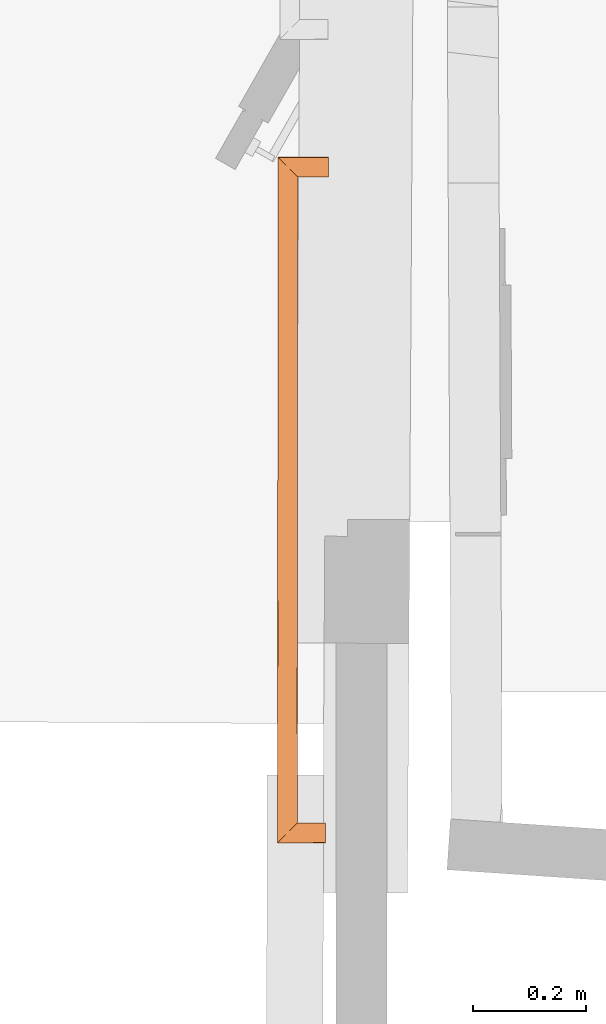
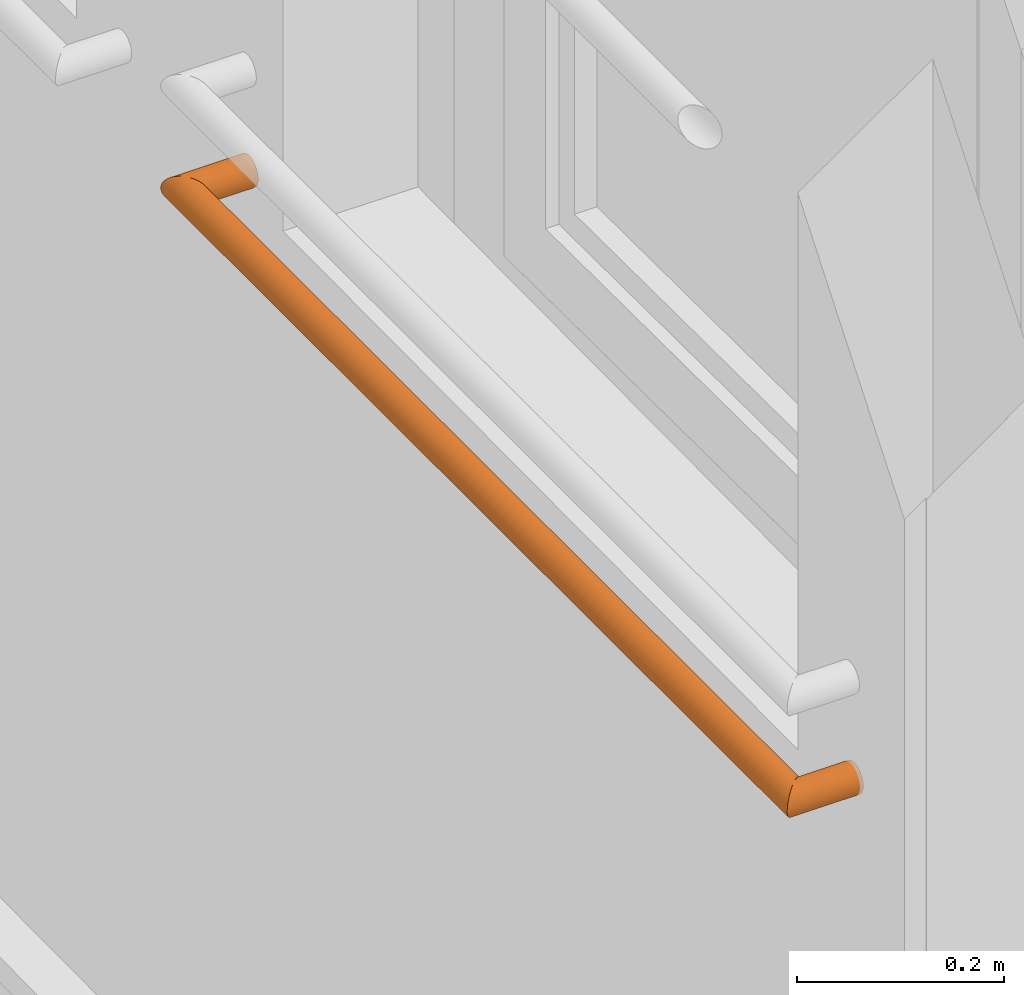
# One storey, part 88 of 97: 1 proxy.
"""IFC2X3 building model written with IfcOpenShell, lengths in centimetres."""

import ifcopenshell
import ifcopenshell.guid

model = None  # the IFC model being written
_history = None  # IfcOwnerHistory: only IFC2X3 demands one
_inside = {}  # id of a spatial element -> (the spatial element, [elements in it])
_under = {}  # id of a project, library or spatial element -> (it, [spatial elements below it])
_declared = {}  # id of a project -> (the project, [libraries it declares])
_typed = {}  # id of a type object -> (the type object, [elements of that type])
_made_of = {}  # id of a material, layer set ... -> (it, [elements and type objects made of it])


def new_model(schema):
    """Start an empty IFC model of exactly this schema.

    Asked for "IFC4X3", IfcOpenShell would pick the latest addendum, in which some entities
    have other attributes; the version numbers below select the first issue.
    IFC2X3 requires an IfcOwnerHistory on every rooted entity: one is made here for all.
    """
    global model, _history
    if schema == "IFC4X3":
        model = ifcopenshell.file(schema_version=(4, 3, 0, 0))
    else:
        model = ifcopenshell.file(schema=schema)
    _inside.clear()
    _under.clear()
    _declared.clear()
    _typed.clear()
    _made_of.clear()
    _history = None
    if model.schema == "IFC2X3":
        org = make("IfcOrganization", Name="unknown")
        user = make(
            "IfcPersonAndOrganization",
            ThePerson=make("IfcPerson", FamilyName="unknown"),
            TheOrganization=org,
        )
        app = make(
            "IfcApplication",
            ApplicationDeveloper=org,
            Version="unknown",
            ApplicationFullName="unknown",
            ApplicationIdentifier="unknown",
        )
        _history = make(
            "IfcOwnerHistory",
            OwningUser=user,
            OwningApplication=app,
            ChangeAction="ADDED",
            CreationDate=0,
        )
    return model


def make(cls, **values):
    """One entity of the class cls with the attributes given. An attribute that is None is left unset."""
    return model.create_entity(
        cls, **{name: value for name, value in values.items() if value is not None}
    )


def entity(cls, *values):
    """Any entity or typed value of the class cls, its attributes in the order of the schema. None: left unset."""
    e = model.create_entity(cls)
    for i, value in enumerate(values):
        if value is not None:
            e[i] = value
    return e


def rooted(cls, **values):
    """An entity with a GlobalId (a new one), such as an element, a storey or a relation."""
    return make(cls, GlobalId=ifcopenshell.guid.new(), OwnerHistory=_history, **values)


def si_unit(unit_type, name, prefix=None):
    """IfcSIUnit, for example si_unit("LENGTHUNIT", "METRE", prefix="MILLI")."""
    return make("IfcSIUnit", UnitType=unit_type, Prefix=prefix, Name=name)


def converted_unit(unit_type, name, factor, base, dimensions=None, offset=None):
    """IfcConversionBasedUnit, such as the inch: factor (a typed value) times the base unit."""
    return make(
        "IfcConversionBasedUnit"
        if offset is None
        else "IfcConversionBasedUnitWithOffset",
        ConversionOffset=offset,
        Dimensions=None
        if dimensions is None
        else entity("IfcDimensionalExponents", *dimensions),
        UnitType=unit_type,
        Name=name,
        ConversionFactor=make(
            "IfcMeasureWithUnit", ValueComponent=factor, UnitComponent=base
        ),
    )


def assignment(units):
    """IfcUnitAssignment: the units of a project."""
    return None if units is None else make("IfcUnitAssignment", Units=units)


def point(xyz):
    """IfcCartesianPoint."""
    return None if xyz is None else make("IfcCartesianPoint", Coordinates=xyz)


def direction(xyz):
    """IfcDirection."""
    return None if xyz is None else make("IfcDirection", DirectionRatios=xyz)


def frame(location, z_axis=None, x_axis=None):
    """IfcAxis2Placement3D, a coordinate frame: its origin and axes. An axis left out is left unset."""
    return make(
        "IfcAxis2Placement3D",
        Location=point(location),
        Axis=direction(z_axis),
        RefDirection=direction(x_axis),
    )


def origin():
    """The frame at (0, 0, 0) with its axes left unset."""
    return frame((0.0, 0.0, 0.0))


def origin_with_axes():
    """The frame at (0, 0, 0) with the z axis (0, 0, 1) and the x axis (1, 0, 0) written out."""
    return frame((0.0, 0.0, 0.0), z_axis=(0.0, 0.0, 1.0), x_axis=(1.0, 0.0, 0.0))


def place(relative_to, where):
    """IfcLocalPlacement: puts the frame where relative to a parent placement (None: the world)."""
    return make(
        "IfcLocalPlacement", PlacementRelTo=relative_to, RelativePlacement=where
    )


def context(
    kind, dimensions, precision=None, world=None, true_north=None, identifier=None
):
    """IfcGeometricRepresentationContext, for example the 3D "Model" context."""
    return make(
        "IfcGeometricRepresentationContext",
        ContextIdentifier=identifier,
        ContextType=kind,
        CoordinateSpaceDimension=dimensions,
        Precision=precision,
        WorldCoordinateSystem=world,
        TrueNorth=true_north,
    )


def subcontext(parent, identifier, kind, view, scale=None):
    """IfcGeometricRepresentationSubContext, for example "Body" below "Model"."""
    return make(
        "IfcGeometricRepresentationSubContext",
        ContextIdentifier=identifier,
        ContextType=kind,
        ParentContext=parent,
        TargetScale=scale,
        TargetView=view,
    )


def project(units=None, contexts=None):
    """IfcProject with its units and contexts."""
    return rooted(
        "IfcProject",
        Name="project",
        RepresentationContexts=contexts,
        UnitsInContext=assignment(units),
    )


def spatial(cls, under=None, at=None, **own):
    """A site, building, storey or space (cls), placed at a placement, below another one or the project."""
    s = rooted(cls, ObjectPlacement=at, **own)
    if under is not None:
        _under.setdefault(under.id(), (under, []))[1].append(s)
    return s


def faces_of(points, faces, orient=None, outer=None):
    """IfcFace entities. A face is a list of loops; a loop is a list of indices into points, from 0.

    orient and outer hold one flag for each loop. By default every Orientation is true, the
    first loop of a face is its IfcFaceOuterBound and the others are IfcFaceBound.
    """
    made = []
    for i, loops in enumerate(faces):
        bounds = []
        for j, loop in enumerate(loops):
            is_outer = j == 0 if outer is None else outer[i][j]
            bounds.append(
                make(
                    "IfcFaceOuterBound" if is_outer else "IfcFaceBound",
                    Bound=make("IfcPolyLoop", Polygon=[points[k] for k in loop]),
                    Orientation=True if orient is None else orient[i][j],
                )
            )
        made.append(make("IfcFace", Bounds=bounds))
    return made


def faceted_brep(points, faces, orient=None, outer=None, voids=None):
    """IfcFacetedBrep: a solid bounded by flat faces; with voids (closed shells), ...WithVoids."""
    shared = [point(p) for p in points]
    hull = make("IfcClosedShell", CfsFaces=faces_of(shared, faces, orient, outer))
    if voids is None:
        return make("IfcFacetedBrep", Outer=hull)
    return make(
        "IfcFacetedBrepWithVoids",
        Outer=hull,
        Voids=[
            make(cls, CfsFaces=faces_of(shared, fs, o, b)) for cls, fs, o, b in voids
        ],
    )


def shape(context_of_items, identifier, shape_type, items):
    """IfcShapeRepresentation: the items that make up one representation, for example the "Body"."""
    return make(
        "IfcShapeRepresentation",
        ContextOfItems=context_of_items,
        RepresentationIdentifier=identifier,
        RepresentationType=shape_type,
        Items=items,
    )


def material(Name=None, Category=None):
    """IfcMaterial."""
    return make("IfcMaterial", Name=Name, Category=Category)


def made_of(thing, what):
    """Note that an element or type object is made of a material, layer set ...; save() writes the relation."""
    if what is not None:
        _made_of.setdefault(what.id(), (what, []))[1].append(thing)
    return thing


def type_object(cls, material=None, **own):
    """A type object (cls), such as IfcWallType, which elements share."""
    return made_of(rooted(cls, **own), material)


def element(
    cls,
    number,
    at=None,
    inside=None,
    cuts=None,
    type_object=None,
    material=None,
    context=None,
    identifier="Body",
    shape_type=None,
    held_by="IfcProductDefinitionShape",
    body=None,
    shapes=None,
    **own,
):
    """One element of the class cls, such as IfcWall. Its Tag is "e" and its number.

    at: its placement. inside: the storey or other place that contains it. cuts: it is an
    opening in that element (IfcRelVoidsElement). A single representation is given by context,
    identifier, shape_type and body (its items); several are given by shapes. held_by: the class
    of the entity that holds the representations. save() writes the other relations.
    """
    e = rooted(cls, Tag="e%d" % number, ObjectPlacement=at, **own)
    if body is not None:
        shapes = [shape(context, identifier, shape_type, body)]
    if shapes is not None:
        e.Representation = make(held_by, Representations=shapes)
    if inside is not None:
        _inside.setdefault(inside.id(), (inside, []))[1].append(e)
    if cuts is not None:
        rooted(
            "IfcRelVoidsElement", RelatingBuildingElement=cuts, RelatedOpeningElement=e
        )
    if type_object is not None:
        _typed.setdefault(type_object.id(), (type_object, []))[1].append(e)
    return made_of(e, material)


def aggregate(whole, parts):
    """IfcRelAggregates: a whole, such as a stair, and the parts it consists of."""
    return rooted("IfcRelAggregates", RelatingObject=whole, RelatedObjects=parts)


def save(model, path):
    """Write the relations noted so far, then the file.

    IfcRelAggregates (storeys below a building ...), IfcRelContainedInSpatialStructure (elements
    in a storey), IfcRelDefinesByType, IfcRelAssociatesMaterial and IfcRelDeclares: one each for
    every whole, place, type object, material and project.
    """
    for whole, parts in _under.values():
        aggregate(whole, parts)
    for where, things in _inside.values():
        rooted(
            "IfcRelContainedInSpatialStructure",
            RelatedElements=things,
            RelatingStructure=where,
        )
    for kind, things in _typed.values():
        rooted("IfcRelDefinesByType", RelatedObjects=things, RelatingType=kind)
    for what, things in _made_of.values():
        rooted("IfcRelAssociatesMaterial", RelatedObjects=things, RelatingMaterial=what)
    for by, libraries in _declared.values():
        rooted("IfcRelDeclares", RelatingContext=by, RelatedDefinitions=libraries)
    model.write(path)


model = new_model("IFC2X3")

# Units and contexts
model_context = context("Model", 3, precision=0.0001, world=origin(), true_north=direction((0.225632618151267, 0.974212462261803, 0.0)))
body_context = subcontext(model_context, "Body", "Model", "MODEL_VIEW")
ifc_project = project(units=[si_unit("LENGTHUNIT", "METRE", prefix="CENTI"), si_unit("AREAUNIT", "SQUARE_METRE", prefix="CENTI"), si_unit("VOLUMEUNIT", "CUBIC_METRE", prefix="CENTI"), converted_unit("PLANEANGLEUNIT", "DEGREE", entity("IfcRatioMeasure", 0.0174532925), si_unit("PLANEANGLEUNIT", "RADIAN"), dimensions=[0, 0, 0, 0, 0, 0, 0])], contexts=[model_context])

# Site, building, storey
site_placement = place(None, origin_with_axes())
site = spatial("IfcSite", under=ifc_project, at=site_placement, Name="Default Site", CompositionType="ELEMENT")
building_placement = place(site_placement, origin_with_axes())
building = spatial("IfcBuilding", under=site, at=building_placement, Name="Default Building", CompositionType="ELEMENT")
storey_placement = place(building_placement, origin_with_axes())
storey = spatial("IfcBuildingStorey", under=building, at=storey_placement, Name="Rez-de-chaussée", CompositionType="ELEMENT", Elevation=0.0)

# Proxy
ifc_material = material(Name="Aluminium mat")
building_element_proxy_type = type_object("IfcBuildingElementProxyType", Name="Profil [C] Ø35mm", PredefinedType="NOTDEFINED", material=ifc_material)
proxy_placement = place(storey_placement, origin_with_axes())
element("IfcBuildingElementProxy", 1, at=proxy_placement, inside=storey, type_object=building_element_proxy_type, material=ifc_material, Name="Extrusion (solide) 1702448", context=body_context, shape_type="Brep", body=[
    faceted_brep([(-1369.92816925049, -196.919226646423, 300.0), (-1369.90156173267, -196.892661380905, 299.696112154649), (-1361.42807006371, -196.899503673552, 299.696112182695), (-1361.42807006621, -196.926090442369, 300.000000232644), (-1369.90156173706, -196.892666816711, 299.696111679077), (-1369.82250214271, -196.813782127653, 299.401471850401), (-1361.42797470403, -196.820560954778, 299.401472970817), (-1361.42807006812, -196.89950912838, 299.696111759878), (-1369.82250213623, -196.813774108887, 299.401473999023), (-1369.69347000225, -196.684957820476, 299.125003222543), (-1361.42787933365, -196.691632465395, 299.125003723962), (-1361.42797469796, -196.820553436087, 299.401475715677), (-1369.69347000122, -196.684956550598, 299.125003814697), (-1369.51837539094, -196.510128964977, 298.875122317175), (-1361.42778396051, -196.516661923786, 298.875122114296), (-1361.42787933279, -196.691631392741, 299.12500442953), (-1369.51837539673, -196.510136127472, 298.875117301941), (-1369.30246353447, -196.294609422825, 298.659416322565), (-1361.42759323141, -196.30097176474, 298.659419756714), (-1361.42778396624, -196.516669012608, 298.875117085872), (-1369.30246353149, -196.294605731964, 298.659420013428), (-1369.05241012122, -196.044928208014, 298.484452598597), (-1361.42740249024, -196.051089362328, 298.484455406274), (-1361.42759322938, -196.300969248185, 298.659423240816), (-1369.05241012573, -196.044933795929, 298.484444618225), (-1368.77574920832, -195.768692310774, 298.355526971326), (-1361.42711639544, -195.774628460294, 298.355527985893), (-1361.42740249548, -196.051095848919, 298.484446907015), (-1368.77574920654, -195.768690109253, 298.355531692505), (-1368.48087311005, -195.474281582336, 298.276581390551), (-1361.42692566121, -195.479979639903, 298.276581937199), (-1361.4271163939, -195.774626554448, 298.355532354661), (-1368.48087310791, -195.474278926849, 298.276591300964), (-1368.1767463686, -195.17064117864, 298.250004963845), (-1361.42663955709, -195.176089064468, 298.250004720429), (-1361.42692565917, -195.47997711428, 298.276591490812), (-1368.17674636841, -195.170640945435, 298.250007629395), (-1367.87261962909, -194.867003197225, 298.276593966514), (-1361.42644882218, -194.872212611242, 298.276593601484), (-1361.4266395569, -195.176088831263, 298.250007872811), (-1367.87261962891, -194.86700296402, 298.276591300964), (-1367.57774353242, -194.572594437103, 298.355541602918), (-1361.42616272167, -194.577565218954, 298.355540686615), (-1361.42644882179, -194.872212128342, 298.276590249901), (-1367.57774353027, -194.572591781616, 298.355531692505), (-1367.30098724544, -194.296350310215, 298.4844493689), (-1361.42597198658, -194.301094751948, 298.484449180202), (-1361.4261627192, -194.577562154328, 298.355530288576), (-1367.30098724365, -194.29634809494, 298.484444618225), (-1367.05093383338, -194.04667057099, 298.659412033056), (-1361.42578124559, -194.051212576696, 298.659412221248), (-1361.42597198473, -194.301092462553, 298.484444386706), (-1367.05093383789, -194.046676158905, 298.659420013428), (-1366.83502197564, -193.831149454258, 298.875120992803), (-1361.42559051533, -193.8355209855, 298.875117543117), (-1361.42578125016, -194.051218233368, 298.659420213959), (-1366.83502197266, -193.831145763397, 298.875117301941), (-1366.65992736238, -193.656318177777, 299.124998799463), (-1361.4253997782, -193.660542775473, 299.125002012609), (-1361.4255905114, -193.835516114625, 298.87511406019), (-1366.65992736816, -193.656325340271, 299.125003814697), (-1366.53089523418, -193.527509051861, 299.401474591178), (-1361.4253044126, -193.531632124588, 299.401473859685), (-1361.42539978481, -193.660550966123, 299.125006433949), (-1366.53089523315, -193.527507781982, 299.401473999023), (-1366.45193100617, -193.448623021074, 299.696113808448), (-1361.42530441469, -193.452682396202, 299.696112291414), (-1361.4253044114, -193.531630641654, 299.401473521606), (-1366.45193099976, -193.448615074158, 299.696111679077), (-1366.42532348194, -193.422049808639, 299.999999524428), (-1361.42520903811, -193.426087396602, 299.999999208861), (-1361.42530440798, -193.452674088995, 299.696111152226), (-1366.42532348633, -193.422055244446, 300.0), (-1366.45193100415, -193.448620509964, 300.303887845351), (-1361.42530441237, -193.452679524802, 300.303888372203), (-1361.4252090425, -193.426092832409, 300.000000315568), (-1366.45193099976, -193.448615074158, 300.303888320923), (-1366.53089522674, -193.527499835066, 300.598528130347), (-1361.42530440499, -193.531622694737, 300.598528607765), (-1361.42530440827, -193.452674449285, 300.303889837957), (-1366.53089523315, -193.527507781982, 300.598526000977), (-1366.65992736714, -193.656324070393, 300.874996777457), (-1361.42539978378, -193.660549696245, 300.874994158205), (-1361.42530441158, -193.53163085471, 300.598526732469), (-1366.65992736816, -193.656325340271, 300.874996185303), (-1366.83502197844, -193.831152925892, 301.124877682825), (-1361.42559051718, -193.83552327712, 301.124880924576), (-1361.42539978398, -193.660549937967, 300.874992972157), (-1366.83502197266, -193.831145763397, 301.124882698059), (-1367.05093383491, -194.046672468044, 301.340583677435), (-1361.42578124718, -194.051214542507, 301.340583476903), (-1361.42559051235, -193.835517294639, 301.124886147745), (-1367.05093383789, -194.046676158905, 301.340579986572), (-1367.30098724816, -194.296353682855, 301.515547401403), (-1361.42597198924, -194.301098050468, 301.515547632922), (-1361.42578125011, -194.05121816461, 301.34057979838), (-1367.30098724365, -194.29634809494, 301.515555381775), (-1367.57774352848, -194.572589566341, 301.64447305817), (-1361.42616271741, -194.577559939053, 301.644474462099), (-1361.42597198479, -194.301092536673, 301.515555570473), (-1367.57774353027, -194.572591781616, 301.644468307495), (-1367.87261962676, -194.867000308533, 301.723418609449), (-1361.42644881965, -194.872209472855, 301.723419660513), (-1361.42616271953, -194.577562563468, 301.644469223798), (-1367.87261962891, -194.86700296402, 301.723408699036), (-1368.17674636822, -195.170640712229, 301.749995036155), (-1361.42663955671, -195.176088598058, 301.749994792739), (-1361.426448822, -194.872212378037, 301.723409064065), (-1368.17674636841, -195.170640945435, 301.749992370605), (-1368.48087310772, -195.474278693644, 301.723406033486), (-1361.42692565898, -195.479976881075, 301.723405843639), (-1361.4266395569, -195.176088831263, 301.749992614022), (-1368.48087310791, -195.474278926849, 301.723408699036), (-1368.7757492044, -195.768687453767, 301.644458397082), (-1361.42711639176, -195.774623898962, 301.644457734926), (-1361.42692565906, -195.479976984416, 301.723408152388), (-1368.77574920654, -195.768690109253, 301.644468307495), (-1369.05241012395, -196.044931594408, 301.515550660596), (-1361.4274024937, -196.051093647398, 301.515548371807), (-1361.42711639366, -195.774626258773, 301.644467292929), (-1369.05241012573, -196.044933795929, 301.515555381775), (-1369.30246353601, -196.294611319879, 301.340587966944), (-1361.42759323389, -196.3009748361, 301.340584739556), (-1361.42740249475, -196.051094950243, 301.515552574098), (-1369.30246353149, -196.294605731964, 301.340579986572), (-1369.51837539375, -196.510132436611, 301.124879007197), (-1361.42778396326, -196.516665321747, 301.124879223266), (-1361.42759322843, -196.300968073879, 301.340576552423), (-1369.51837539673, -196.510136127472, 301.124882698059), (-1369.693470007, -196.684963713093, 300.875001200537), (-1361.42787933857, -196.691638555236, 300.875000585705), (-1361.4277839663, -196.516669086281, 301.124882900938), (-1369.69347000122, -196.684956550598, 300.874996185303), (-1369.82250213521, -196.813772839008, 300.598525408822), (-1361.42797469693, -196.820552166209, 300.598523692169), (-1361.42787933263, -196.691631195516, 300.874995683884), (-1369.82250213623, -196.813774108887, 300.598526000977), (-1369.90156173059, -196.892658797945, 300.3038861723), (-1361.42807006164, -196.899501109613, 300.3038860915), (-1361.42797469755, -196.820552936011, 300.59852488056), (-1369.90156173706, -196.892666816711, 300.303888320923), (-1369.92816925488, -196.91923208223, 300.000000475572), (-1361.4280700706, -196.926095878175, 300.000000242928), (-1361.4280700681, -196.899509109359, 300.303888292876), (-1369.83022689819, -75.724732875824, 300.0), (-1369.80366197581, -75.7513165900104, 299.696116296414), (-1369.90148303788, -196.89266688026, 299.696118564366), (-1369.92809127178, -196.919226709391, 300.000006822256), (-1369.8037147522, -75.7513165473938, 299.696111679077), (-1369.72483157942, -75.8302688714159, 299.401477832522), (-1369.82252249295, -196.813774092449, 299.401468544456), (-1369.90153736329, -196.892666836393, 299.696118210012), (-1369.72484588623, -75.8302688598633, 299.401473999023), (-1369.59602526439, -75.9591877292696, 299.124994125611), (-1369.69350701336, -196.684956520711, 299.12498655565), (-1369.82253265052, -196.813774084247, 299.401459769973), (-1369.59600448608, -75.959187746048, 299.125003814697), (-1369.42118075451, -76.1341571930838, 298.875127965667), (-1369.51837588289, -196.510136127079, 298.875116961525), (-1369.6934832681, -196.684956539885, 299.124994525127), (-1369.42119598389, -76.1341571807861, 298.875117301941), (-1369.20566919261, -76.3498544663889, 298.6594164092), (-1369.30249547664, -196.294605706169, 298.659388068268), (-1369.51838710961, -196.510136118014, 298.875105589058), (-1369.20566558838, -76.3498544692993, 298.659420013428), (-1368.95598801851, -76.5997350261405, 298.484452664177), (-1369.05241592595, -196.044933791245, 298.484436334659), (-1369.30248217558, -196.294605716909, 298.659393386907), (-1368.95599365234, -76.5997350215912, 298.484444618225), (-1368.67972276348, -76.8761992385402, 298.355513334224), (-1368.77575239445, -195.768690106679, 298.355524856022), (-1369.05241633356, -196.044933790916, 298.484431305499), (-1368.67971420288, -76.8761992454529, 298.355531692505), (-1368.38531678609, -77.170848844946, 298.276584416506), (-1368.48087301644, -195.474278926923, 298.276591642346), (-1368.77574719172, -195.76869011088, 298.35553921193), (-1368.38531494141, -77.1708488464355, 298.276591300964), (-1368.08166536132, -77.4747312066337, 298.250003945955), (-1368.17674636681, -195.170640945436, 298.250007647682), (-1368.48087288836, -195.474278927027, 298.276593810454), (-1368.08166503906, -77.4747312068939, 298.250007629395), (-1367.77801545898, -77.7786135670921, 298.276594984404), (-1367.872619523, -194.867002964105, 298.276590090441), (-1368.17674604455, -195.170640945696, 298.250003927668), (-1367.77801513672, -77.7786135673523, 298.276591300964), (-1367.48361772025, -78.0732691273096, 298.355538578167), (-1367.57774167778, -194.572591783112, 298.355524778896), (-1367.87261585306, -194.867002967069, 298.276577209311), (-1367.48361587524, -78.0732691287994, 298.355531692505), (-1367.20742332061, -78.3497333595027, 298.484426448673), (-1367.30099139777, -194.296348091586, 298.484453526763), (-1367.57773367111, -194.572591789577, 298.355510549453), (-1367.20743179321, -78.3497333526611, 298.484444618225), (-1366.95769022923, -78.5996079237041, 298.659456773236), (-1367.05094425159, -194.046676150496, 298.659434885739), (-1367.30101050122, -194.29634807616, 298.48447783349), (-1366.95766448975, -78.5996079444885, 298.659420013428), (-1366.74218538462, -78.8153112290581, 298.875073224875), (-1366.83501891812, -193.831145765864, 298.875114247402), (-1367.05091055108, -194.046676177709, 298.659396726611), (-1366.74222946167, -78.8153111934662, 298.875117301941), (-1366.5673743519, -78.9902746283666, 299.125037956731), (-1366.65996963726, -193.656325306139, 299.125033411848), (-1366.83507702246, -193.831145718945, 298.875155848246), (-1366.56732559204, -78.9902746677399, 299.125003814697), (-1366.43852200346, -79.1191936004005, 299.401447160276), (-1366.53089377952, -193.527507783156, 299.401473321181), (-1366.65991941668, -193.656325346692, 299.125000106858), (-1366.43857955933, -79.1191935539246, 299.401473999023), (-1366.35968999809, -79.1981458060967, 299.696131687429), (-1366.45195047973, -193.448615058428, 299.696116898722), (-1366.53095896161, -193.527507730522, 299.401491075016), (-1366.35961532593, -79.198145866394, 299.696111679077), (-1366.33305040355, -79.2247295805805, 299.999995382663), (-1366.42526406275, -193.42205529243, 299.999994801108), (-1366.45187229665, -193.44861512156, 299.696106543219), (-1366.33310317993, -79.2247295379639, 300.0), (-1366.35966810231, -79.1981458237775, 300.303883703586), (-1366.45192507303, -193.448615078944, 300.303888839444), (-1366.42531683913, -193.422055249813, 300.000000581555), (-1366.35961532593, -79.198145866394, 300.303888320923), (-1366.43850488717, -79.1191936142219, 300.598546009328), (-1366.53088428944, -193.527507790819, 300.598528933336), (-1366.45187580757, -193.448615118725, 300.303903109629), (-1366.43857955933, -79.1191935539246, 300.598526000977), (-1366.5673831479, -78.9902746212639, 300.874969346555), (-1366.65997697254, -193.656325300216, 300.874973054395), (-1366.53095133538, -193.52750773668, 300.598499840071), (-1366.56732559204, -78.9902746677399, 300.874996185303), (-1366.74218070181, -78.8153112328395, 301.124916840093), (-1366.8350282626, -193.831145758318, 301.124878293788), (-1366.6599208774, -193.656325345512, 300.875000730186), (-1366.74222946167, -78.8153111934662, 301.124882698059), (-1366.9577085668, -78.5996079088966, 301.340535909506), (-1367.05095462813, -194.046676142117, 301.340559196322), (-1366.83506299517, -193.831145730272, 301.124841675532), (-1366.95766448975, -78.5996079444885, 301.340579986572), (-1367.20740605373, -78.3497333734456, 301.515592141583), (-1367.30098476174, -194.296348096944, 301.515558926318), (-1367.0509185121, -194.04667617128, 301.340601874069), (-1367.20743179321, -78.3497333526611, 301.515555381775), (-1367.48362434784, -78.0732691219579, 301.644450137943), (-1367.57774214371, -194.572591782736, 301.644471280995), (-1367.30099987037, -194.296348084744, 301.515528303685), (-1367.48361587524, -78.0732691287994, 301.644468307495), (-1367.77801329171, -77.7786135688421, 301.723415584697), (-1367.87261400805, -194.867002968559, 301.723429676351), (-1367.57773983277, -194.572591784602, 301.644482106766), (-1367.77801513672, -77.7786135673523, 301.723408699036), (-1368.0816647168, -77.4747312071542, 301.749996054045), (-1368.17674572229, -195.170640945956, 301.749999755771), (-1367.87261920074, -194.867002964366, 301.723413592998), (-1368.08166503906, -77.4747312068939, 301.749992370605), (-1368.38531461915, -77.1708488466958, 301.723405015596), (-1368.4808725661, -195.474278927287, 301.723402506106), (-1368.17674604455, -195.170640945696, 301.749988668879), (-1368.38531494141, -77.1708488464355, 301.723408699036), (-1368.6797123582, -76.8761992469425, 301.644461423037), (-1368.77574534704, -195.768690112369, 301.644453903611), (-1368.48087117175, -195.474278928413, 301.723401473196), (-1368.67971420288, -76.8761992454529, 301.644468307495), (-1368.95598509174, -76.5997350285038, 301.515537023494), (-1369.05240777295, -196.044933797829, 301.51555033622), (-1368.77574383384, -195.768690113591, 301.644456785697), (-1368.95599365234, -76.5997350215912, 301.515555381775), (-1369.20567122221, -76.34985446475, 301.340588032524), (-1369.30248780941, -196.29460571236, 301.340614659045), (-1369.05242155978, -196.044933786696, 301.515571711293), (-1369.20566558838, -76.3498544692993, 301.340579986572), (-1369.42119237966, -76.1341571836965, 301.124879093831), (-1369.51838350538, -196.510136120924, 301.124890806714), (-1369.30249187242, -196.294605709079, 301.340608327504), (-1369.42119598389, -76.1341571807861, 301.124882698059), (-1369.59601971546, -75.9591877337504, 300.875006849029), (-1369.69349849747, -196.684956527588, 300.875016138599), (-1369.51839111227, -196.510136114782, 301.124893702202), (-1369.59600448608, -75.959187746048, 300.874996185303), (-1369.72482510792, -75.8302688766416, 300.598516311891), (-1369.82251187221, -196.813774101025, 300.59853054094), (-1369.69348623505, -196.684956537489, 300.875003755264), (-1369.72484588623, -75.8302688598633, 300.598526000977), (-1369.803729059, -75.7513165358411, 300.303892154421), (-1369.90155167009, -196.89266682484, 300.303885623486), (-1369.82253679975, -196.813774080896, 300.598535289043), (-1369.8037147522, -75.7513165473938, 300.303888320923), (-1369.83027967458, -75.7247328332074, 300.000004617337), (-1369.92814404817, -196.919226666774, 299.999997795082), (-1369.90153581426, -196.892666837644, 300.303886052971), (-1360.94026565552, -75.724732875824, 300.0), (-1360.94026565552, -75.7513196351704, 299.696111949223), (-1369.8037147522, -75.7513196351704, 299.696111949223), (-1360.94026565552, -75.7513165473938, 299.696111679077), (-1360.94026565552, -75.8302647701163, 299.401472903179), (-1369.72484588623, -75.8302647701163, 299.401472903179), (-1360.94026565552, -75.8302688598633, 299.401473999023), (-1360.94026565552, -75.9591887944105, 299.125004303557), (-1369.59600448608, -75.9591887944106, 299.125004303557), (-1360.94026565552, -75.959187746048, 299.125003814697), (-1360.94026565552, -76.1341591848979, 298.875118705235), (-1369.42119598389, -76.134159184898, 298.875118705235), (-1360.94026565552, -76.1341571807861, 298.875117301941), (-1360.94026565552, -76.3498544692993, 298.659420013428), (-1369.42119598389, -76.1341571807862, 298.875117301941), (-1360.94026565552, -76.599738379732, 298.484449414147), (-1368.95599365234, -76.599738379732, 298.484449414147), (-1360.94026565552, -76.5997350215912, 298.484444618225), (-1360.94026565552, -76.876197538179, 298.355528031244), (-1368.67971420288, -76.876197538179, 298.355528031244), (-1360.94026565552, -76.8761992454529, 298.355531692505), (-1360.94026565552, -77.1708461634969, 298.276581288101), (-1368.38531494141, -77.1708461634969, 298.276581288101), (-1360.94026565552, -77.1708488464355, 298.276591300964), (-1360.94026565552, -77.4747309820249, 298.25000505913), (-1368.08166503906, -77.4747309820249, 298.25000505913), (-1360.94026565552, -77.4747312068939, 298.250007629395), (-1360.94026565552, -77.7786133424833, 298.276593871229), (-1367.77801513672, -77.7786133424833, 298.276593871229), (-1360.94026565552, -77.7786135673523, 298.276591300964), (-1360.94026565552, -78.0732660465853, 298.355543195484), (-1367.48361587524, -78.0732660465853, 298.355543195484), (-1360.94026565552, -78.0732691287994, 298.355531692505), (-1360.94026565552, -78.3497316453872, 298.484448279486), (-1367.20743179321, -78.3497316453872, 298.484448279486), (-1360.94026565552, -78.3497333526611, 298.484444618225), (-1360.94026565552, -78.5996132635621, 298.659412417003), (-1366.95766448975, -78.5996132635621, 298.659412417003), (-1360.94026565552, -78.5996079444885, 298.659420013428), (-1360.94026565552, -78.8153082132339, 298.875120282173), (-1366.74222946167, -78.8153082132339, 298.875120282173), (-1360.94026565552, -78.8153111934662, 298.875117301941), (-1360.94026565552, -78.9902806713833, 299.124999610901), (-1366.56732559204, -78.9902806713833, 299.124999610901), (-1360.94026565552, -78.9902746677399, 299.125003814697), (-1360.94026565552, -79.1191946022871, 299.401473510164), (-1366.43857955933, -79.1191946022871, 299.401473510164), (-1366.56732559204, -78.9902746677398, 299.125003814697), (-1360.94026565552, -79.1191935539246, 299.401473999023), (-1360.94026565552, -79.198141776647, 299.696112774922), (-1366.35961532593, -79.198141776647, 299.696112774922), (-1366.43857955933, -79.1191935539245, 299.401473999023), (-1360.94026565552, -79.198145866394, 299.696111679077), (-1360.94026565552, -79.2247326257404, 299.999999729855), (-1366.33310317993, -79.2247326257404, 299.999999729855), (-1360.94026565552, -79.2247295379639, 300.0), (-1360.94026565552, -79.1981427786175, 300.303888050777), (-1366.35961532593, -79.1981427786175, 300.303888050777), (-1360.94026565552, -79.198145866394, 300.303888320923), (-1360.94026565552, -79.1191976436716, 300.598527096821), (-1366.43857955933, -79.1191976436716, 300.598527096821), (-1360.94026565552, -79.1191935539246, 300.598526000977), (-1360.94026565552, -78.9902736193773, 300.874995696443), (-1366.56732559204, -78.9902736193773, 300.874995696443), (-1360.94026565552, -78.9902746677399, 300.874996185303), (-1360.94026565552, -78.8153051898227, 301.124878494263), (-1366.74222946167, -78.8153051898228, 301.124878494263), (-1360.94026565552, -78.8153111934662, 301.124882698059), (-1360.94026565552, -78.5996109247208, 301.340582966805), (-1366.95766448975, -78.5996109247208, 301.340582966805), (-1360.94026565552, -78.5996079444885, 301.340579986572), (-1360.94026565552, -78.3497280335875, 301.51554778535), (-1367.20743179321, -78.3497280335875, 301.515547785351), (-1366.95766448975, -78.5996079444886, 301.340579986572), (-1360.94026565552, -78.3497333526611, 301.515555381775), (-1360.94026565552, -78.0732708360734, 301.644471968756), (-1367.48361587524, -78.0732708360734, 301.644471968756), (-1367.20743179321, -78.3497333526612, 301.515555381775), (-1360.94026565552, -78.0732691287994, 301.644468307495), (-1360.94026565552, -77.7786166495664, 301.723420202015), (-1367.77801513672, -77.7786166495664, 301.723420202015), (-1360.94026565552, -77.7786135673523, 301.723408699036), (-1360.94026565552, -77.4747314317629, 301.74999494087), (-1368.08166503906, -77.4747314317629, 301.74999494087), (-1360.94026565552, -77.4747312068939, 301.749992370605), (-1360.94026565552, -77.1708490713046, 301.723406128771), (-1368.38531494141, -77.1708490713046, 301.723406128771), (-1368.08166503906, -77.4747312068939, 301.749992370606), (-1360.94026565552, -77.1708488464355, 301.723408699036), (-1360.94026565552, -76.8762019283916, 301.644458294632), (-1368.67971420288, -76.8762019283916, 301.644458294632), (-1360.94026565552, -76.8761992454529, 301.644468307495), (-1360.94026565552, -76.5997367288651, 301.515551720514), (-1368.95599365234, -76.5997367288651, 301.515551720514), (-1360.94026565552, -76.5997350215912, 301.515555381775), (-1360.94026565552, -76.3498511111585, 301.340584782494), (-1369.20566558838, -76.3498511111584, 301.340584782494), (-1360.94026565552, -76.3498544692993, 301.340579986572), (-1360.94026565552, -76.1341571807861, 301.124882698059), (-1360.94026565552, -75.9591857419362, 300.874997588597), (-1369.59600448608, -75.9591857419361, 300.874997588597), (-1360.94026565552, -75.959187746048, 300.874996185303), (-1360.94026565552, -75.8302678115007, 300.598526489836), (-1369.72484588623, -75.8302678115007, 300.598526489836), (-1369.59600448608, -75.9591877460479, 300.874996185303), (-1360.94026565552, -75.8302688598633, 300.598526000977), (-1360.94026565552, -75.7513206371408, 300.303887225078), (-1369.8037147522, -75.7513206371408, 300.303887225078), (-1360.94026565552, -75.7513165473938, 300.303888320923), (-1360.94026565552, -75.7247297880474, 300.000000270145), (-1369.83022689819, -75.7247297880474, 300.000000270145), (-1361.42807006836, -196.926093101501, 300.0), (-1361.42804860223, -196.899509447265, 299.696111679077), (-1361.42798484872, -196.820557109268, 299.401473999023), (-1361.42788074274, -196.691632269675, 299.125003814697), (-1361.42773946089, -196.516668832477, 298.875117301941), (-1361.4275652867, -196.300971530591, 298.659420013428), (-1361.42736351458, -196.051096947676, 298.484444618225), (-1361.42714026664, -195.774626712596, 298.355531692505), (-1361.42690233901, -195.479977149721, 298.276591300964), (-1361.42665695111, -195.176088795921, 298.250007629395), (-1361.4264115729, -194.872212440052, 298.276591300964), (-1361.42617364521, -194.577562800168, 298.355531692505), (-1361.42595039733, -194.301092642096, 298.484444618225), (-1361.42574862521, -194.051218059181, 298.659420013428), (-1361.42557445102, -193.835520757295, 298.875117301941), (-1361.42543315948, -193.660545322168, 299.125003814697), (-1361.42532906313, -193.531632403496, 299.401473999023), (-1361.42526530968, -193.452680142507, 299.696111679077), (-1361.42524384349, -193.426096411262, 300.0), (-1361.42526530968, -193.452680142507, 300.303888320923), (-1361.42532906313, -193.531632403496, 300.598526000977), (-1361.42543315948, -193.660545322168, 300.874996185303), (-1361.42557445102, -193.835520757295, 301.124882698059), (-1361.42574862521, -194.051218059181, 301.340579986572), (-1361.42595039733, -194.301092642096, 301.515555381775), (-1361.42617364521, -194.577562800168, 301.644468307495), (-1361.4264115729, -194.872212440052, 301.723408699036), (-1361.42665695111, -195.176088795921, 301.749992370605), (-1361.42690233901, -195.479977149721, 301.723408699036), (-1361.42714026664, -195.774626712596, 301.644468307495), (-1361.42736351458, -196.051096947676, 301.515555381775), (-1361.4275652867, -196.300971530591, 301.340579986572), (-1361.42773946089, -196.516668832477, 301.124882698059), (-1361.42788074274, -196.691632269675, 300.874996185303), (-1361.42798484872, -196.820557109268, 300.598526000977), (-1361.42804860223, -196.899509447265, 300.303888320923)], [[[0, 1, 2, 3]], [[4, 5, 6, 7]], [[8, 9, 10, 11]], [[12, 13, 14, 15]], [[16, 17, 18, 19]], [[20, 21, 22, 23]], [[24, 25, 26, 27]], [[28, 29, 30, 31]], [[32, 33, 34, 35]], [[36, 37, 38, 39]], [[40, 41, 42, 43]], [[44, 45, 46, 47]], [[48, 49, 50, 51]], [[52, 53, 54, 55]], [[56, 57, 58, 59]], [[60, 61, 62, 63]], [[64, 65, 66, 67]], [[68, 69, 70, 71]], [[72, 73, 74, 75]], [[76, 77, 78, 79]], [[80, 81, 82, 83]], [[84, 85, 86, 87]], [[88, 89, 90, 91]], [[92, 93, 94, 95]], [[96, 97, 98, 99]], [[100, 101, 102, 103]], [[104, 105, 106, 107]], [[108, 109, 110, 111]], [[112, 113, 114, 115]], [[116, 117, 118, 119]], [[120, 121, 122, 123]], [[124, 125, 126, 127]], [[128, 129, 130, 131]], [[132, 133, 134, 135]], [[136, 137, 138, 139]], [[140, 141, 142, 143]], [[144, 145, 146, 147]], [[148, 149, 150, 151]], [[152, 153, 154, 155]], [[156, 157, 158, 159]], [[160, 161, 162, 163]], [[164, 165, 166, 167]], [[168, 169, 170, 171]], [[172, 173, 174, 175]], [[176, 177, 178, 179]], [[180, 181, 182, 183]], [[184, 185, 186, 187]], [[188, 189, 190, 191]], [[192, 193, 194, 195]], [[196, 197, 198, 199]], [[200, 201, 202, 203]], [[204, 205, 206, 207]], [[208, 209, 210, 211]], [[212, 213, 214, 215]], [[216, 217, 218, 219]], [[220, 221, 222, 223]], [[224, 225, 226, 227]], [[228, 229, 230, 231]], [[232, 233, 234, 235]], [[236, 237, 238, 239]], [[240, 241, 242, 243]], [[244, 245, 246, 247]], [[248, 249, 250, 251]], [[252, 253, 254, 255]], [[256, 257, 258, 259]], [[260, 261, 262, 263]], [[264, 265, 266, 267]], [[268, 269, 270, 271]], [[272, 273, 274, 275]], [[276, 277, 278, 279]], [[280, 281, 282, 283]], [[284, 285, 286, 287]], [[288, 289, 290, 144]], [[291, 292, 293, 148]], [[294, 295, 296, 152]], [[297, 298, 299, 156]], [[300, 301, 164, 302]], [[301, 303, 304, 164]], [[305, 306, 307, 168]], [[308, 309, 310, 172]], [[311, 312, 313, 176]], [[314, 315, 316, 180]], [[317, 318, 319, 184]], [[320, 321, 322, 188]], [[323, 324, 325, 192]], [[326, 327, 328, 196]], [[329, 330, 331, 200]], [[332, 333, 334, 335]], [[336, 337, 338, 339]], [[340, 341, 342, 212]], [[343, 344, 345, 216]], [[346, 347, 348, 220]], [[349, 350, 351, 224]], [[352, 353, 354, 228]], [[355, 356, 357, 232]], [[358, 359, 360, 361]], [[362, 363, 364, 365]], [[366, 367, 368, 244]], [[369, 370, 371, 248]], [[372, 373, 374, 375]], [[376, 377, 378, 256]], [[379, 380, 381, 260]], [[382, 383, 384, 264]], [[385, 386, 272, 268]], [[386, 387, 388, 272]], [[389, 390, 391, 392]], [[393, 394, 395, 280]], [[396, 397, 398, 284]], [[399, 400, 401, 402, 403, 404, 405, 406, 407, 408, 409, 410, 411, 412, 413, 414, 415, 416, 417, 418, 419, 420, 421, 422, 423, 424, 425, 426, 427, 428, 429, 430, 431, 432, 433, 434]], [[396, 393, 389, 386, 385, 382, 379, 376, 372, 369, 366, 362, 358, 355, 352, 349, 346, 343, 340, 336, 332, 329, 326, 323, 320, 317, 314, 311, 308, 305, 301, 300, 297, 294, 291, 288]]]),
])

save(model, "model.ifc")
